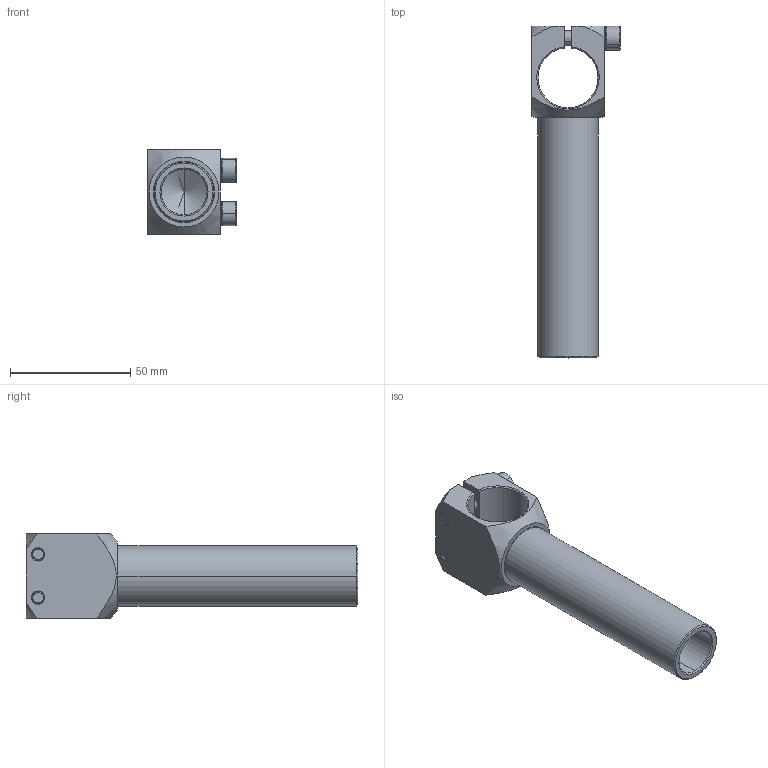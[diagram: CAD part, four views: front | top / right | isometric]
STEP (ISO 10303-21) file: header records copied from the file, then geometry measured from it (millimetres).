
FILE_DESCRIPTION (( 'STEP AP203' ), '1' );
FILE_NAME ('7.Y02031-SCA2-2525L100.STEP', '2024-01-23T09:38:19', ( '微软用户' ), ( '微软中国' ), 'SwSTEP 2.0', 'SolidWorks 2018', '' );
FILE_SCHEMA (( 'CONFIG_CONTROL_DESIGN' ));
Length unit declared in the file: millimetre
Products named in the file (4): 20.07.1.20001282; PTS-M6; PTC-M6L30; 7.Y02031-SCA2-2525L100
Assembly tree (5 placements, depth 2):
  7.Y02031-SCA2-2525L100
    20.07.1.20001282
    PTS-M6  x2
    PTC-M6L30  x2
Bounding box: 36.65 x 138 x 35 mm (x, y, z)
Volume: 43601.4 mm3; surface area: 25059.4 mm2
Topology: 5 solids, 5 shells, 497 faces, 1398 edges, 911 vertices
Faces by surface type: plane 426, cone 34, cylinder 31, torus 6
Entity records: 9436 total; most frequent: CARTESIAN_POINT 1704, DIRECTION 1576, ORIENTED_EDGE 1524, EDGE_CURVE 762, AXIS2_PLACEMENT_3D 549, VERTEX_POINT 495, LINE 478, VECTOR 478
